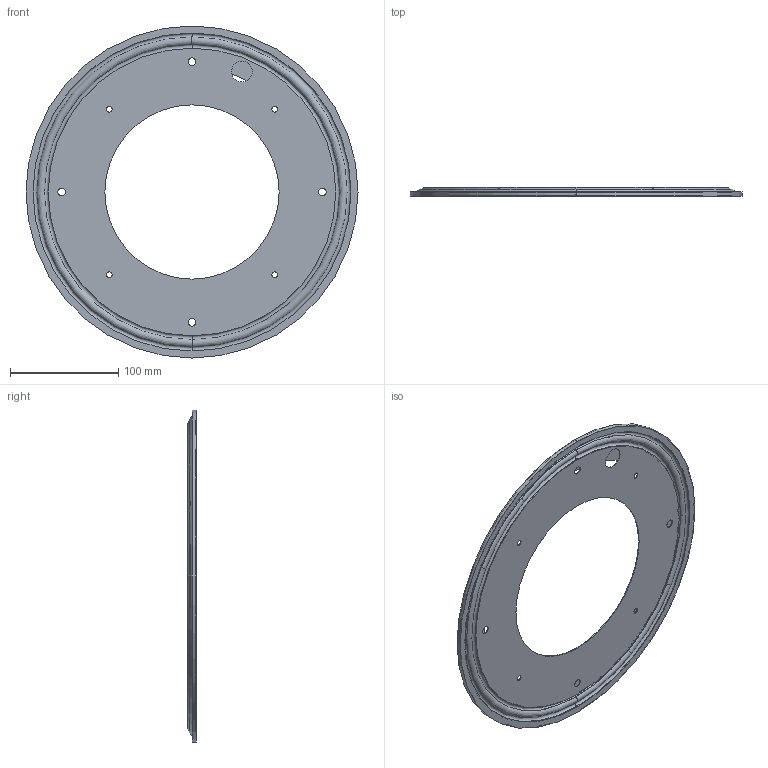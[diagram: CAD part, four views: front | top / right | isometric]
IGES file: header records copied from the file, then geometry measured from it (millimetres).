
Global section: file name: No Iges File Name specified; native system: AutoDesk Inventor R6.0; preprocessor: AutoDesk Inventor Iges Exporter R6.0; author: No Author specified; organization: No Organization specified; date: 20080103.174306; units: inch
Bounding box: 306.4 x 7.95 x 306.4 mm (x, y, z)
Surface area: 200278.8 mm2 (no closed solid volume)
Topology: 0 solids, 0 shells, 149 faces, 728 edges, 674 vertices
Faces by surface type: revolution 137, plane 12
